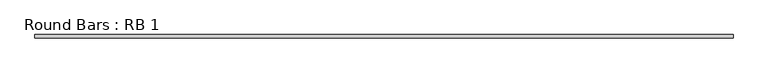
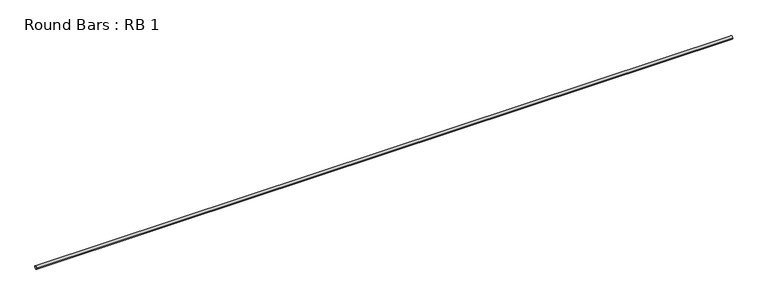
"""IFC4 building model written with IfcOpenShell, lengths in millimetres: beam geometry, Round Bars : RB 1."""

from ifc_helpers import new_model, si_unit, point, frame, origin, origin_2d, place, context, project, spatial, circle_curve, trimmed, segment, composite_curve, outline, extrude, source, transform, mapped, element, save


def round_bars_rb_1_b22cf1d7(model_context):
    return source(origin(), model_context, "Body", "SweptSolid", [
        extrude(outline(composite_curve([segment(trimmed(circle_curve(origin_2d(), 12.7), [point((12.7, 0.0))], [point((-12.7, 0.0))], False, "CARTESIAN"), True, "CONTINUOUS"), segment(trimmed(circle_curve(origin_2d(), 12.7), [point((-12.7, 0.0))], [point((12.7, 0.0))], False, "CARTESIAN"), True, "CONTINUOUS")], self_intersect=False)), frame((-2757.7642965, 0.0, 0.0), z_axis=(1.0, 0.0, 0.0), x_axis=(0.0, 1.0, 0.0)), (0.0, 0.0, 1.0), 5500.578153),
    ])


if __name__ == "__main__":
    model = new_model("IFC4")
    model_context = context("Model", 3, world=origin())
    ifc_project = project(units=[si_unit("LENGTHUNIT", "METRE", prefix="MILLI")], contexts=[model_context])
    site = spatial("IfcSite", under=ifc_project)
    building = spatial("IfcBuilding", under=site)
    placement = place(None, origin())
    round_bars_rb_1_shape = round_bars_rb_1_b22cf1d7(model_context)
    element("IfcBeam", 1, ObjectType="Round Bars : RB 1", at=placement, inside=building, context=model_context, shape_type="MappedRepresentation", body=[
        mapped(round_bars_rb_1_shape, transform((0.0, 0.0, 0.0), x_axis=(1.0, 0.0, 0.0), y_axis=(0.0, 1.0, 0.0), z_axis=(0.0, 0.0, 1.0))),
    ])
    save(model, "model.ifc")
